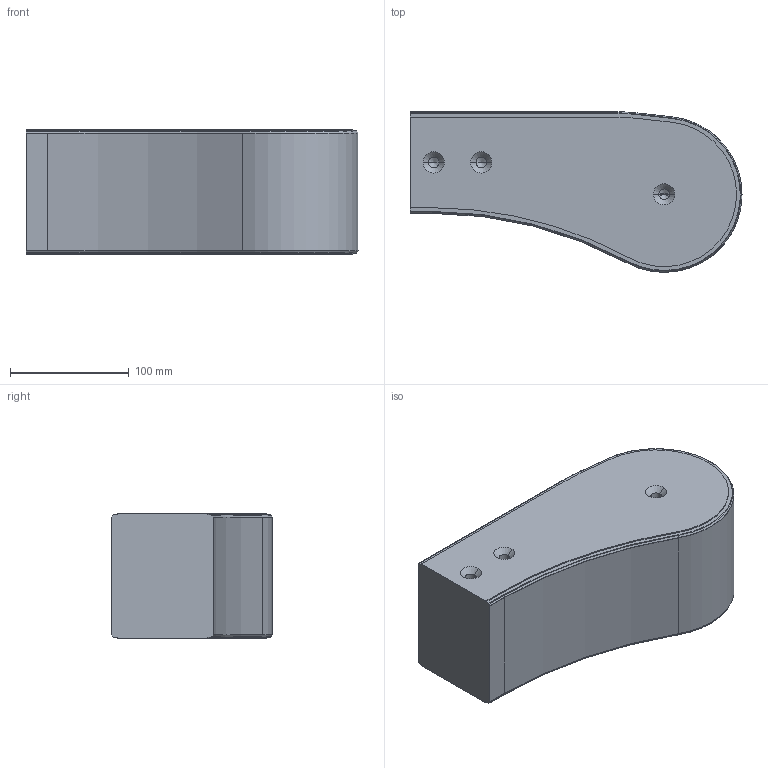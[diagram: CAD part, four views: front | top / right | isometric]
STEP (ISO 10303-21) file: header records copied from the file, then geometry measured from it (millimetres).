
FILE_DESCRIPTION (( 'STEP AP214' ), '1' );
FILE_NAME ('FCIE 280P.step', '2017-04-07T11:06:27', ( '' ), ( '' ), 'SwSTEP 2.0', 'SolidWorks 2016', '' );
FILE_SCHEMA (( 'AUTOMOTIVE_DESIGN' ));
Length unit declared in the file: millimetre
Products named in the file (1): FCIE 280P
Bounding box: 279.53 x 135.21 x 105 mm (x, y, z)
Volume: 2999951.5 mm3; surface area: 134098.3 mm2
Topology: 1 solids, 1 shells, 98 faces, 234 edges, 132 vertices
Faces by surface type: cylinder 35, cone 31, plane 20, torus 12
Entity records: 3257 total; most frequent: DIRECTION 526, CARTESIAN_POINT 453, ORIENTED_EDGE 444, EDGE_CURVE 222, AXIS2_PLACEMENT_3D 205, VERTEX_POINT 132, LINE 116, VECTOR 116
